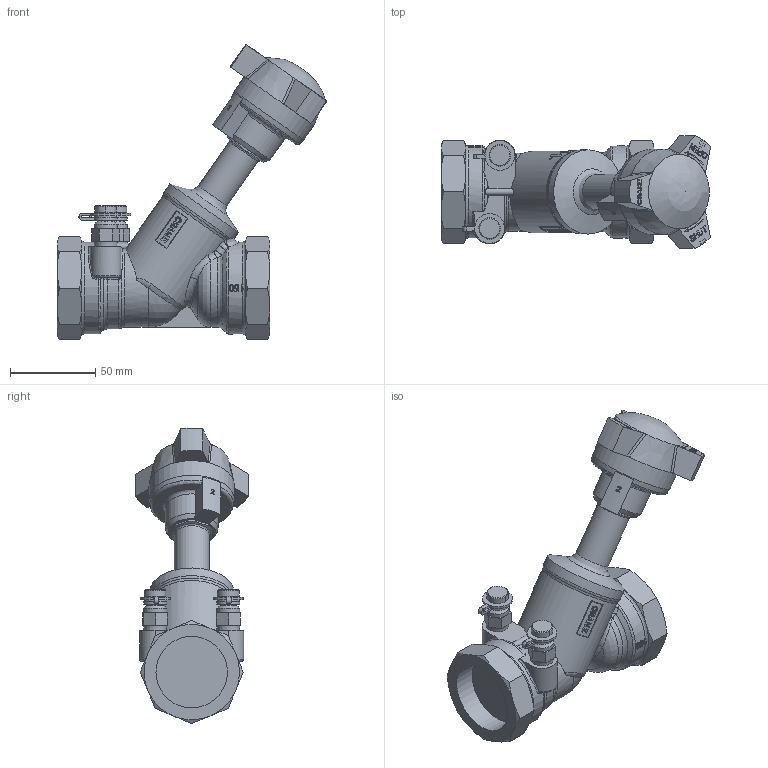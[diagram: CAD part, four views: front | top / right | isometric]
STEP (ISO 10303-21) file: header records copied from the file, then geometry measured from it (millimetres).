
FILE_DESCRIPTION((''),'2;1');
FILE_NAME('P:\Fastrack\53972_CRANE 3D\Workspace\CRANE\D931_1 1-2in\D931_1 1-2.stp','2011-03-07T09:15:40',('btaylor'),(''),'Autodesk Inventor 2008','Autodesk Inventor 2008','');
FILE_SCHEMA(('AUTOMOTIVE_DESIGN { 1 0 10303 214 1 1 1 1 }'));
Length unit declared in the file: millimetre
Products named in the file (1): D931_1 1-2
Bounding box: 158.53 x 66.44 x 173.6 mm (x, y, z)
Volume: 391206.7 mm3; surface area: 53308.8 mm2
Topology: 1 solids, 1 shells, 859 faces, 2283 edges, 1484 vertices
Faces by surface type: bspline 368, plane 354, cylinder 78, cone 48, torus 9, sphere 2
Full cylindrical faces by diameter (mm): 7.4 x2, 11 x2, 12.7 x2, 13.7 x2, 20.5 x1, 49.5 x1, 50 x1, 54 x2
Entity records: 84095 total; most frequent: CARTESIAN_POINT 64832, ORIENTED_EDGE 4452, DIRECTION 2615, EDGE_CURVE 2226, VERTEX_POINT 1461, VECTOR 1013, LINE 1013, EDGE_LOOP 953
